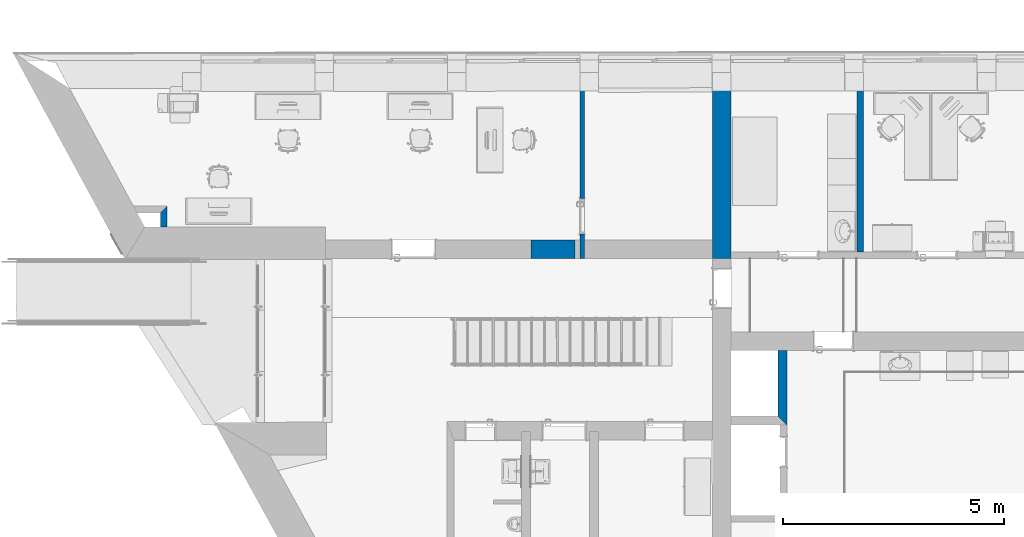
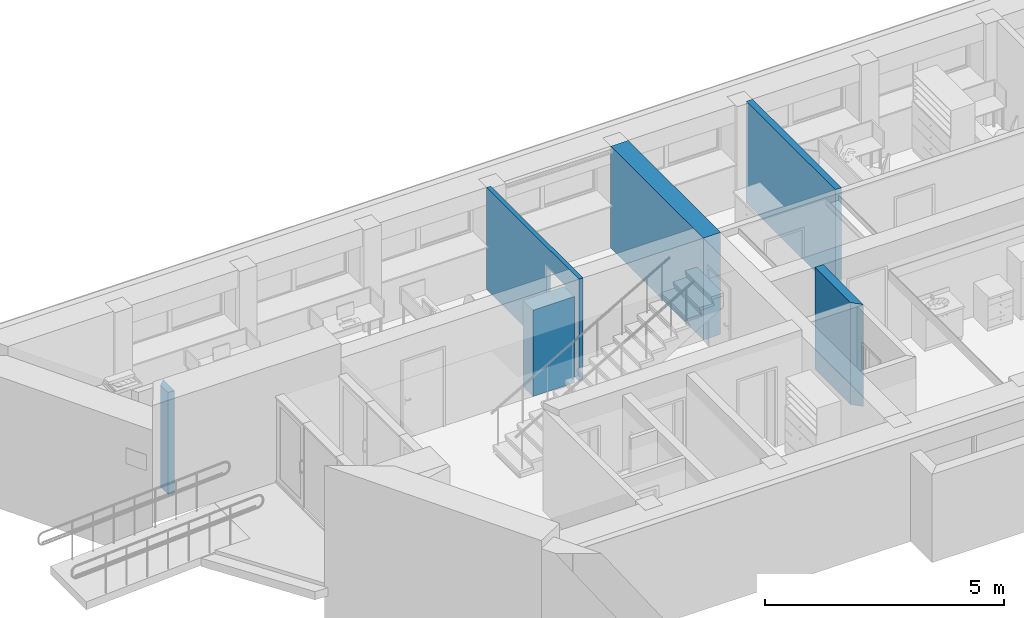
# One storey, part 22 of 127: 6 walls, 1 opening.
"""IFC2X3 building model written with IfcOpenShell, lengths in millimetres."""

from ifc_helpers import new_model, entity, si_unit, converted_unit, derived_unit, money_unit, direction, frame, origin_with_axes, origin_2d_with_axis, place, context, subcontext, project, spatial, polyline, rectangle, outline, extrude, material, layer, layer_set, layer_usage, type_object, element, save


model = new_model("IFC2X3")

# Units and contexts
model_context = context("Model", 3, precision=1e-05, world=origin_with_axes(), true_north=direction((0.0, 1.0)))
body_context = subcontext(model_context, "Body", "Model", "MODEL_VIEW")
ifc_project = project(units=[si_unit("LENGTHUNIT", "METRE", prefix="MILLI"), si_unit("AREAUNIT", "SQUARE_METRE"), si_unit("VOLUMEUNIT", "CUBIC_METRE"), converted_unit("PLANEANGLEUNIT", "DEGREE", entity("IfcPlaneAngleMeasure", 0.0174532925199), si_unit("PLANEANGLEUNIT", "RADIAN"), dimensions=[0, 0, 0, 0, 0, 0, 0]), si_unit("SOLIDANGLEUNIT", "STERADIAN"), money_unit("EUR"), converted_unit("TIMEUNIT", "Year", entity("IfcTimeMeasure", 31556926.0), si_unit("TIMEUNIT", "SECOND"), dimensions=[0, 0, 1, 0, 0, 0, 0]), si_unit("MASSUNIT", "GRAM", prefix="KILO"), si_unit("THERMODYNAMICTEMPERATUREUNIT", "DEGREE_CELSIUS"), si_unit("LUMINOUSINTENSITYUNIT", "LUMEN"), si_unit("ENERGYUNIT", "JOULE", prefix="MEGA"), derived_unit("THERMALCONDUCTANCEUNIT", [(si_unit("POWERUNIT", "WATT"), 1), (si_unit("LENGTHUNIT", "METRE"), -1), (si_unit("THERMODYNAMICTEMPERATUREUNIT", "KELVIN"), -1)]), derived_unit("SPECIFICHEATCAPACITYUNIT", [(si_unit("ENERGYUNIT", "JOULE"), 1), (si_unit("MASSUNIT", "GRAM", prefix="KILO"), -1), (si_unit("THERMODYNAMICTEMPERATUREUNIT", "KELVIN"), -1)]), derived_unit("MASSDENSITYUNIT", [(si_unit("MASSUNIT", "GRAM", prefix="KILO"), 1), (si_unit("VOLUMEUNIT", "CUBIC_METRE"), -1)])], contexts=[model_context])

# Site, building, storey
site_placement = place(None, origin_with_axes())
site = spatial("IfcSite", under=ifc_project, at=site_placement, Name="Site", CompositionType="ELEMENT")
building_placement = place(site_placement, origin_with_axes())
building = spatial("IfcBuilding", under=site, at=building_placement, Name="Building", CompositionType="ELEMENT")
storey_placement = place(building_placement, origin_with_axes())
storey = spatial("IfcBuildingStorey", under=building, at=storey_placement, Name="1 KORRUS", CompositionType="ELEMENT", Elevation=0.0)

# Walls
ifc_material_1 = material(Name="Kivi -Ol.Olev Konstruktsioon")
ifc_layer_1 = layer(ifc_material_1, 150.0, ventilated="UNKNOWN")
ifc_layer_set_1 = layer_set([ifc_layer_1], Name="ol.olev ss 150")
ifc_layer_usage_1 = layer_usage(ifc_layer_set_1, "AXIS2", "POSITIVE", 0.0)
wall_type_1 = type_object("IfcWallType", Name="SW - 022", PredefinedType="NOTDEFINED")
wall_1_placement = place(storey_placement, frame((19160.7678672, 67449.4236553, 0.0), z_axis=(0.0, 0.0, 1.0), x_axis=(0.0, 1.0, 0.0)))
element("IfcWallStandardCase", 1, at=wall_1_placement, inside=storey, type_object=wall_type_1, material=ifc_layer_usage_1, Name="ol.olev ss 150", context=body_context, shape_type="SweptSolid", body=[
    extrude(outline(polyline([(0.0, 0.0), (3721.92520571, 0.0), (3721.73901925, 150.0), (0.0, 150.0), (0.0, 0.0)])), origin_with_axes(), (0.0, 0.0, 1.0), 2600.0),
])
ifc_layer_2 = layer(ifc_material_1, 420.0, ventilated="UNKNOWN")
ifc_layer_set_2 = layer_set([ifc_layer_2], Name="ol.olev ss 420")
ifc_layer_usage_2 = layer_usage(ifc_layer_set_2, "AXIS2", "NEGATIVE", 420.0)
wall_2_placement = place(storey_placement, frame((16158.8998227, 67299.2498003, 0.0), z_axis=(0.0, 0.0, 1.0), x_axis=(-5.30165370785e-05, 0.999999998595, 0.0)))
element("IfcWallStandardCase", 2, at=wall_2_placement, inside=storey, type_object=wall_type_1, material=ifc_layer_usage_2, Name="ol.olev ss 420", context=body_context, shape_type="SweptSolid", body=[
    extrude(outline(polyline([(0.0, 0.0), (3868.3727637, 0.0), (3867.87370858, 420.0), (0.0, 420.0), (0.0, 0.0)])), origin_with_axes(), (0.0, 0.0, 1.0), 2600.0),
])

# Wall, opening
ifc_layer_3 = layer(ifc_material_1, 100.0, ventilated="UNKNOWN")
ifc_layer_set_3 = layer_set([ifc_layer_3], Name="ol.olev ss 100")
ifc_layer_usage_3 = layer_usage(ifc_layer_set_3, "AXIS2", "POSITIVE", -100.0)
wall_3_placement = place(storey_placement, frame((12740.9132401, 67298.912857, 0.0), z_axis=(0.0, 0.0, 1.0), x_axis=(0.0, 1.0, 0.0)))
wall_3 = element("IfcWallStandardCase", 3, at=wall_3_placement, inside=storey, type_object=wall_type_1, material=ifc_layer_usage_3, Name="ol.olev ss 100", context=body_context, shape_type="SweptSolid", body=[
    extrude(outline(polyline([(0.0, -100.0), (3864.59152832, -100.0), (3864.46740401, 0.0), (0.0, 0.0), (0.0, -100.0)])), origin_with_axes(), (0.0, 0.0, 1.0), 2600.0),
])
opening_placement = place(wall_3_placement, frame((959.487650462, 0.0, 0.0), z_axis=(0.0, 0.0, 1.0), x_axis=(1.0, 0.0, 0.0)))
element("IfcOpeningElement", 4, at=opening_placement, cuts=wall_3, Name="Siseuks * Door 22", context=body_context, shape_type="SweptSolid", body=[
    extrude(rectangle(XDim=799.999999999, YDim=2100.0, at=origin_2d_with_axis()), frame((0.0, 100.0, 1050.0), z_axis=(0.0, 1.0, 0.0), x_axis=(-1.0, 0.0, 0.0)), (0.0, 0.0, -1.0), 300.0),
    extrude(rectangle(XDim=874.0, YDim=2137.0, at=origin_2d_with_axis()), frame((0.0, 0.0, 1068.5), z_axis=(0.0, 1.0, 0.0), x_axis=(-1.0, 0.0, 0.0)), (0.0, 0.0, 1.0), 100.0),
    extrude(rectangle(XDim=874.0, YDim=2137.0, at=origin_2d_with_axis()), frame((0.0, -100.0, 1068.5), z_axis=(0.0, -1.0, 0.0), x_axis=(-1.0, 0.0, 0.0)), (0.0, 0.0, 1.0), 100.0),
])

# Walls
ifc_layer_4 = layer(ifc_material_1, 200.0, ventilated="UNKNOWN")
ifc_layer_set_4 = layer_set([ifc_layer_4], Name="ol.olev ss 200")
ifc_layer_usage_4 = layer_usage(ifc_layer_set_4, "AXIS2", "POSITIVE", 0.0)
wall_4_placement = place(storey_placement, frame((17226.1801656, 65636.3690561, 0.0), z_axis=(0.0, 0.0, 1.0), x_axis=(0.0, -1.0, 0.0)))
element("IfcWallStandardCase", 5, at=wall_4_placement, inside=storey, type_object=wall_type_1, material=ifc_layer_usage_4, Name="ol.olev ss 200", context=body_context, shape_type="SweptSolid", body=[
    extrude(outline(polyline([(420.0, 0.0), (1905.85795532, 0.0), (2105.54729791, 200.0), (420.0, 200.0), (420.0, 0.0)])), origin_with_axes(), (0.0, 0.0, 1.0), 2600.0),
])
ifc_material_2 = material(Name="Kivi -  Uus Konstruktsioon")
ifc_layer_5 = layer(ifc_material_2, 420.0, ventilated="UNKNOWN")
ifc_layer_set_5 = layer_set([ifc_layer_5], Name="uus kinni ehitav sein 420")
ifc_layer_usage_5 = layer_usage(ifc_layer_set_5, "AXIS2", "NEGATIVE", 0.0)
wall_type_2 = type_object("IfcWallType", Name="FIBO", PredefinedType="NOTDEFINED")
wall_5_placement = place(storey_placement, frame((11631.2589704, 67719.0627776, 0.0), z_axis=(0.0, 0.0, 1.0), x_axis=(1.0, 0.0, 0.0)))
element("IfcWallStandardCase", 6, at=wall_5_placement, inside=storey, type_object=wall_type_2, material=ifc_layer_usage_5, Name="uus kinni ehitav sein 420", context=body_context, shape_type="SweptSolid", body=[
    extrude(outline(polyline([(0.0, -420.0), (1000.0, -420.0), (1000.0, 0.0), (0.0, 0.0), (0.0, -420.0)])), origin_with_axes(), (0.0, 0.0, 1.0), 2200.0),
])
ifc_layer_6 = layer(ifc_material_2, 150.0, ventilated="UNKNOWN")
ifc_layer_set_6 = layer_set([ifc_layer_6], Name="uus ss 150")
ifc_layer_usage_6 = layer_usage(ifc_layer_set_6, "AXIS2", "NEGATIVE", 0.0)
wall_type_3 = type_object("IfcWallType", Name="SS-1", PredefinedType="NOTDEFINED")
wall_6_placement = place(storey_placement, frame((3394.56613718, 68482.240186, 0.0), z_axis=(0.0, 0.0, 1.0), x_axis=(0.0, -1.0, 0.0)))
element("IfcWallStandardCase", 7, at=wall_6_placement, inside=storey, type_object=wall_type_3, material=ifc_layer_usage_6, Name="sahti sein", context=body_context, shape_type="SweptSolid", body=[
    extrude(outline(polyline([(150.0, -150.0), (465.487179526, -150.0), (465.487179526, 0.0), (0.0, 0.0), (150.0, -150.0)])), origin_with_axes(), (0.0, 0.0, 1.0), 2600.0),
])

save(model, "model.ifc")
